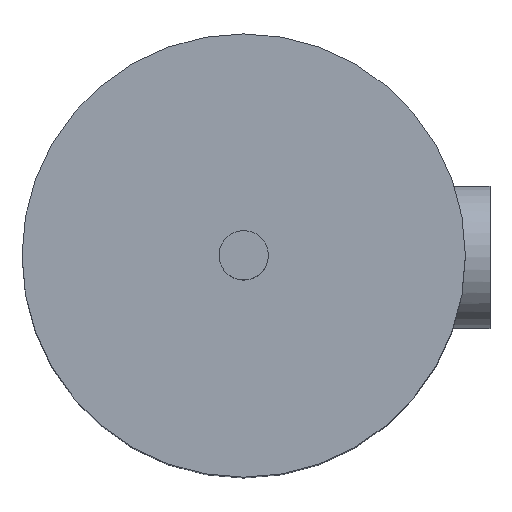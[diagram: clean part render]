
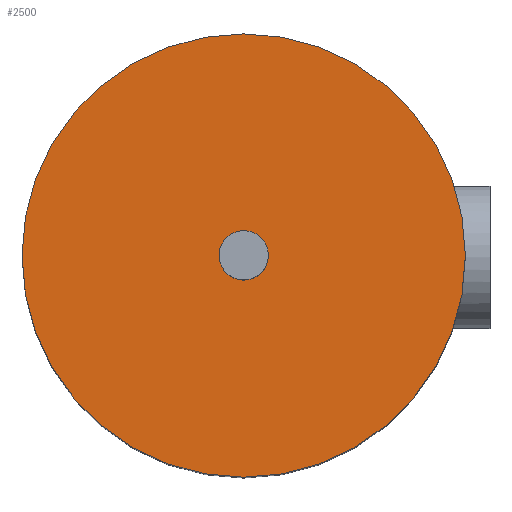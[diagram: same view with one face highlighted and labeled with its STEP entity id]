
A CAD part, top view. The second image highlights one B-rep face of the part: STEP entity #2500.
In plain terms, the highlighted planar face has unit normal (0, 0, 1).
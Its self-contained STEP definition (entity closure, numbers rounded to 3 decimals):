
#2416 = CYLINDRICAL_SURFACE('',#2417,45.);
#2417 = AXIS2_PLACEMENT_3D('',#2418,#2419,#2420);
#2418 = CARTESIAN_POINT('',(0.,0.,130.));
#2419 = DIRECTION('',(0.,0.,1.));
#2420 = DIRECTION('',(1.,0.,0.));
#2449 = EDGE_CURVE('',#2450,#2450,#2452,.T.);
#2450 = VERTEX_POINT('',#2451);
#2451 = CARTESIAN_POINT('',(45.,0.,234.));
#2452 = SURFACE_CURVE('',#2453,(#2458,#2465),.PCURVE_S1.);
#2453 = CIRCLE('',#2454,45.);
#2454 = AXIS2_PLACEMENT_3D('',#2455,#2456,#2457);
#2455 = CARTESIAN_POINT('',(0.,0.,234.));
#2456 = DIRECTION('',(0.,0.,1.));
#2457 = DIRECTION('',(1.,0.,0.));
#2458 = PCURVE('',#2416,#2459);
#2459 = DEFINITIONAL_REPRESENTATION('',(#2460),#2464);
#2460 = LINE('',#2461,#2462);
#2461 = CARTESIAN_POINT('',(0.,104.));
#2462 = VECTOR('',#2463,1.);
#2463 = DIRECTION('',(1.,0.));
#2464 = ( GEOMETRIC_REPRESENTATION_CONTEXT(2) 
PARAMETRIC_REPRESENTATION_CONTEXT() REPRESENTATION_CONTEXT('2D SPACE',''
  ) );
#2465 = PCURVE('',#2466,#2471);
#2466 = PLANE('',#2467);
#2467 = AXIS2_PLACEMENT_3D('',#2468,#2469,#2470);
#2468 = CARTESIAN_POINT('',(0.,0.,234.));
#2469 = DIRECTION('',(0.,0.,1.));
#2470 = DIRECTION('',(1.,0.,0.));
#2471 = DEFINITIONAL_REPRESENTATION('',(#2472),#2476);
#2472 = CIRCLE('',#2473,45.);
#2473 = AXIS2_PLACEMENT_2D('',#2474,#2475);
#2474 = CARTESIAN_POINT('',(0.,0.));
#2475 = DIRECTION('',(1.,0.));
#2476 = ( GEOMETRIC_REPRESENTATION_CONTEXT(2) 
PARAMETRIC_REPRESENTATION_CONTEXT() REPRESENTATION_CONTEXT('2D SPACE',''
  ) );
#2500 = ADVANCED_FACE('',(#2501,#2504),#2466,.T.);
#2501 = FACE_BOUND('',#2502,.T.);
#2502 = EDGE_LOOP('',(#2503));
#2503 = ORIENTED_EDGE('',*,*,#2449,.T.);
#2504 = FACE_BOUND('',#2505,.T.);
#2505 = EDGE_LOOP('',(#2506));
#2506 = ORIENTED_EDGE('',*,*,#2507,.F.);
#2507 = EDGE_CURVE('',#2508,#2508,#2510,.T.);
#2508 = VERTEX_POINT('',#2509);
#2509 = CARTESIAN_POINT('',(5.,0.,234.));
#2510 = SURFACE_CURVE('',#2511,(#2516,#2523),.PCURVE_S1.);
#2511 = CIRCLE('',#2512,5.);
#2512 = AXIS2_PLACEMENT_3D('',#2513,#2514,#2515);
#2513 = CARTESIAN_POINT('',(0.,0.,234.));
#2514 = DIRECTION('',(0.,0.,1.));
#2515 = DIRECTION('',(1.,0.,-0.));
#2516 = PCURVE('',#2466,#2517);
#2517 = DEFINITIONAL_REPRESENTATION('',(#2518),#2522);
#2518 = CIRCLE('',#2519,5.);
#2519 = AXIS2_PLACEMENT_2D('',#2520,#2521);
#2520 = CARTESIAN_POINT('',(0.,0.));
#2521 = DIRECTION('',(1.,0.));
#2522 = ( GEOMETRIC_REPRESENTATION_CONTEXT(2) 
PARAMETRIC_REPRESENTATION_CONTEXT() REPRESENTATION_CONTEXT('2D SPACE',''
  ) );
#2523 = PCURVE('',#2524,#2529);
#2524 = CYLINDRICAL_SURFACE('',#2525,5.);
#2525 = AXIS2_PLACEMENT_3D('',#2526,#2527,#2528);
#2526 = CARTESIAN_POINT('',(0.,0.,22.5));
#2527 = DIRECTION('',(0.,0.,1.));
#2528 = DIRECTION('',(1.,0.,0.));
#2529 = DEFINITIONAL_REPRESENTATION('',(#2530),#2534);
#2530 = LINE('',#2531,#2532);
#2531 = CARTESIAN_POINT('',(0.,211.5));
#2532 = VECTOR('',#2533,1.);
#2533 = DIRECTION('',(1.,0.));
#2534 = ( GEOMETRIC_REPRESENTATION_CONTEXT(2) 
PARAMETRIC_REPRESENTATION_CONTEXT() REPRESENTATION_CONTEXT('2D SPACE',''
  ) );
